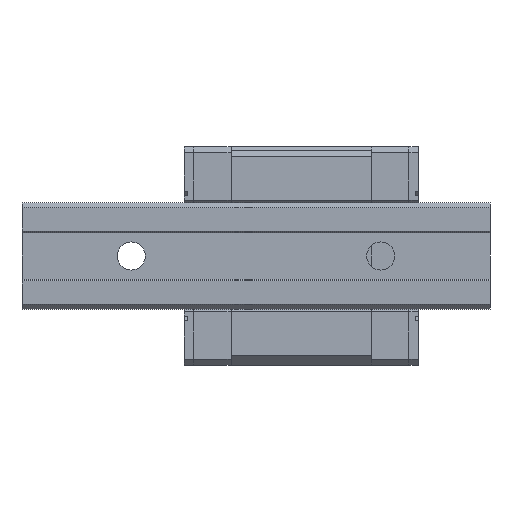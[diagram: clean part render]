
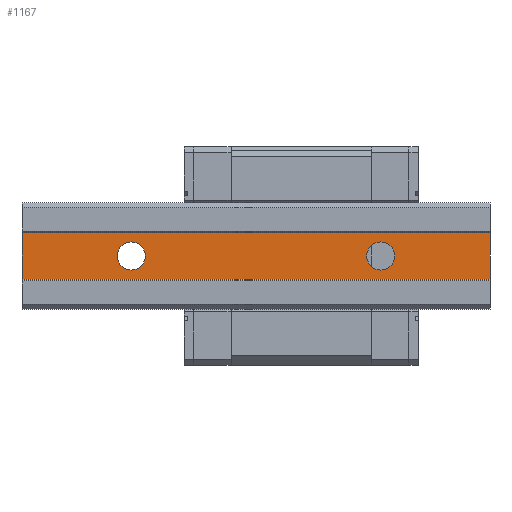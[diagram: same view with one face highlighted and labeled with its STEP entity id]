
A CAD part, front view. The second image highlights one B-rep face of the part: STEP entity #1167.
In plain terms, the highlighted planar face has unit normal (0, -1, 0).
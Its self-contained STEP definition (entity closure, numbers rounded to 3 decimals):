
#1167 = ADVANCED_FACE( '', ( #2428, #2429, #2430 ), #2431, .F. );
#2428 = FACE_BOUND( '', #3839, .T. );
#2429 = FACE_BOUND( '', #3840, .T. );
#2430 = FACE_OUTER_BOUND( '', #3841, .T. );
#2431 = PLANE( '', #3842 );
#3839 = EDGE_LOOP( '', ( #6912 ) );
#3840 = EDGE_LOOP( '', ( #6913 ) );
#3841 = EDGE_LOOP( '', ( #6914, #6915, #6916, #6917 ) );
#3842 = AXIS2_PLACEMENT_3D( '', #6918, #6919, #6920 );
#6912 = ORIENTED_EDGE( '', *, *, #9772, .F. );
#6913 = ORIENTED_EDGE( '', *, *, #8868, .F. );
#6914 = ORIENTED_EDGE( '', *, *, #8541, .T. );
#6915 = ORIENTED_EDGE( '', *, *, #9464, .F. );
#6916 = ORIENTED_EDGE( '', *, *, #9773, .F. );
#6917 = ORIENTED_EDGE( '', *, *, #8823, .T. );
#6918 = CARTESIAN_POINT( '', ( 75., 0.5, 7.5 ) );
#6919 = DIRECTION( '', ( 0., 1., 0. ) );
#6920 = DIRECTION( '', ( 0., 0., 1. ) );
#8541 = EDGE_CURVE( '', #10152, #10150, #10153, .T. );
#8823 = EDGE_CURVE( '', #10658, #10152, #10659, .T. );
#8868 = EDGE_CURVE( '', #10733, #10733, #10734, .F. );
#9464 = EDGE_CURVE( '', #11667, #10150, #11669, .T. );
#9772 = EDGE_CURVE( '', #12104, #12104, #12105, .F. );
#9773 = EDGE_CURVE( '', #10658, #11667, #12106, .T. );
#10150 = VERTEX_POINT( '', #12532 );
#10152 = VERTEX_POINT( '', #12535 );
#10153 = LINE( '', #12536, #12537 );
#10658 = VERTEX_POINT( '', #13261 );
#10659 = LINE( '', #13262, #13263 );
#10733 = VERTEX_POINT( '', #13382 );
#10734 = CIRCLE( '', #13383, 4.5 );
#11667 = VERTEX_POINT( '', #14760 );
#11669 = LINE( '', #14763, #14764 );
#12104 = VERTEX_POINT( '', #15436 );
#12105 = CIRCLE( '', #15437, 4.5 );
#12106 = LINE( '', #15438, #15439 );
#12532 = CARTESIAN_POINT( '', ( -75., 0.5, -7.5 ) );
#12535 = CARTESIAN_POINT( '', ( -75., 0.5, 7.5 ) );
#12536 = CARTESIAN_POINT( '', ( -75., 0.5, 7.5 ) );
#12537 = VECTOR( '', #16003, 1000. );
#13261 = CARTESIAN_POINT( '', ( 75., 0.5, 7.5 ) );
#13262 = CARTESIAN_POINT( '', ( 75., 0.5, 7.5 ) );
#13263 = VECTOR( '', #16288, 1000. );
#13382 = CARTESIAN_POINT( '', ( -40., 0.5, 4.5 ) );
#13383 = AXIS2_PLACEMENT_3D( '', #16327, #16328, #16329 );
#14760 = CARTESIAN_POINT( '', ( 75., 0.5, -7.5 ) );
#14763 = CARTESIAN_POINT( '', ( 75., 0.5, -7.5 ) );
#14764 = VECTOR( '', #16886, 1000. );
#15436 = CARTESIAN_POINT( '', ( 40., 0.5, 4.5 ) );
#15437 = AXIS2_PLACEMENT_3D( '', #17191, #17192, #17193 );
#15438 = CARTESIAN_POINT( '', ( 75., 0.5, 7.5 ) );
#15439 = VECTOR( '', #17194, 1000. );
#16003 = DIRECTION( '', ( 0., 0., -1. ) );
#16288 = DIRECTION( '', ( -1., 0., 0. ) );
#16327 = CARTESIAN_POINT( '', ( -40., 0.5, 0. ) );
#16328 = DIRECTION( '', ( 0., 1., 0. ) );
#16329 = DIRECTION( '', ( 0., 0., 1. ) );
#16886 = DIRECTION( '', ( -1., 0., 0. ) );
#17191 = CARTESIAN_POINT( '', ( 40., 0.5, 0. ) );
#17192 = DIRECTION( '', ( 0., 1., 0. ) );
#17193 = DIRECTION( '', ( 0., 0., 1. ) );
#17194 = DIRECTION( '', ( 0., 0., -1. ) );
